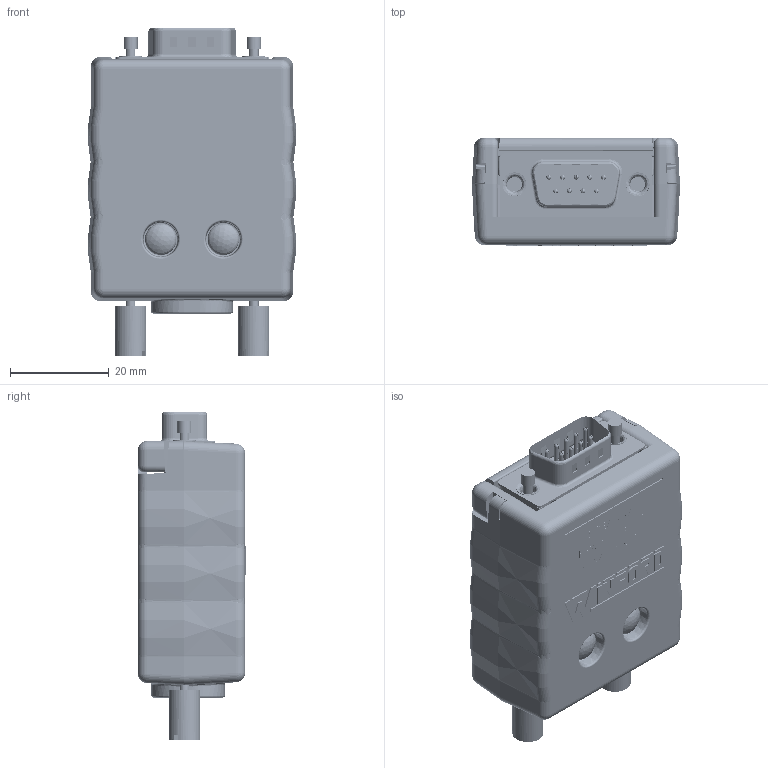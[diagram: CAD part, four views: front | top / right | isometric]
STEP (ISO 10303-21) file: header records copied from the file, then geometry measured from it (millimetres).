
FILE_DESCRIPTION (( 'STEP AP214' ), '1' );
FILE_NAME ('brkead9m-t_rev_a.stp', '2021-08-28T21:58:31', ( '' ), ( '' ), 'SwSTEP 2.0', 'SolidWorks 2017', '' );
FILE_SCHEMA (( 'AUTOMOTIVE_DESIGN' ));
Length unit declared in the file: inch
Products named in the file (13): Enclosure #4-40 Insert_92395A112; brkead9m-t_rev_a; brkead9m-t Label; DB9 Male Nut; 3.5 x 5 Nylon 6 Snap Rivet; BRKEAD9M Assembly_brkegd9f-t_rev_a; ECB9A2 Base; Enclosure_Screw Ph 4-40 x .625_90272A112; thumbscrew; Screw Terminal 3 Pos; BRKEAD9M Board; ECB9A2 Cover; Screw Terminal 2 Pos
Assembly tree (18 placements, depth 3):
  brkead9m-t_rev_a
    ECB9A2 Base
    ECB9A2 Cover
    3.5 x 5 Nylon 6 Snap Rivet  x2
    Enclosure_Screw Ph 4-40 x .625_90272A112  x2
    Enclosure #4-40 Insert_92395A112  x2
    BRKEAD9M Assembly_brkegd9f-t_rev_a
      BRKEAD9M Board
      thumbscrew  x2
      Screw Terminal 2 Pos  x2
      Screw Terminal 3 Pos  x2
      DB9 Male Nut
    brkead9m-t Label
Bounding box: 42.19 x 22 x 66.61 mm (x, y, z)
Volume: 17144.4 mm3; surface area: 28773.9 mm2
Topology: 18 solids, 97 shells, 7208 faces, 18468 edges, 11461 vertices
Faces by surface type: bspline 2754, plane 2590, cylinder 1472, torus 148, cone 124, sphere 120
Entity records: 270034 total; most frequent: CARTESIAN_POINT 138245, ORIENTED_EDGE 26994, DIRECTION 18393, EDGE_CURVE 14102, VERTEX_POINT 8954, VECTOR 7071, LINE 7071, EDGE_LOOP 5733
